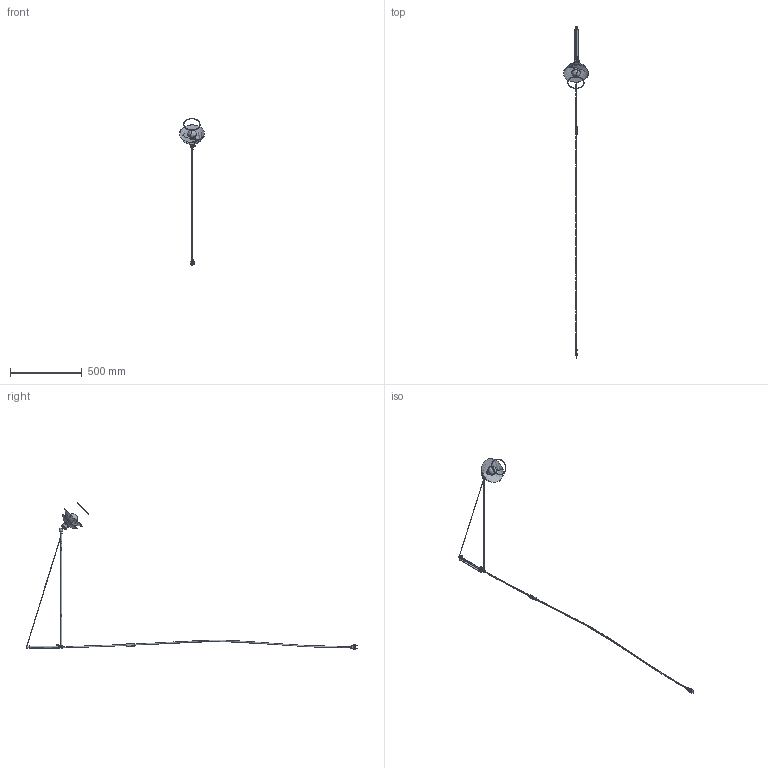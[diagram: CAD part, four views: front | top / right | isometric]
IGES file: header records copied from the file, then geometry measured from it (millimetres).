
Start section: SolidWorks IGES file using analytic representation for surfaces
Global section: file name: E:\3D lampy\Crane\Crane_9374.IGS; native system: SolidWorks 2017; preprocessor: SolidWorks 2017; author: Asia; date: 180329.143348; units: millimetre
Bounding box: 174.46 x 2311.75 x 1021.68 mm (x, y, z)
Surface area: 331493.5 mm2 (no closed solid volume)
Topology: 0 solids, 0 shells, 922 faces, 10995 edges, 10958 vertices
Faces by surface type: revolution 514, bspline 408
